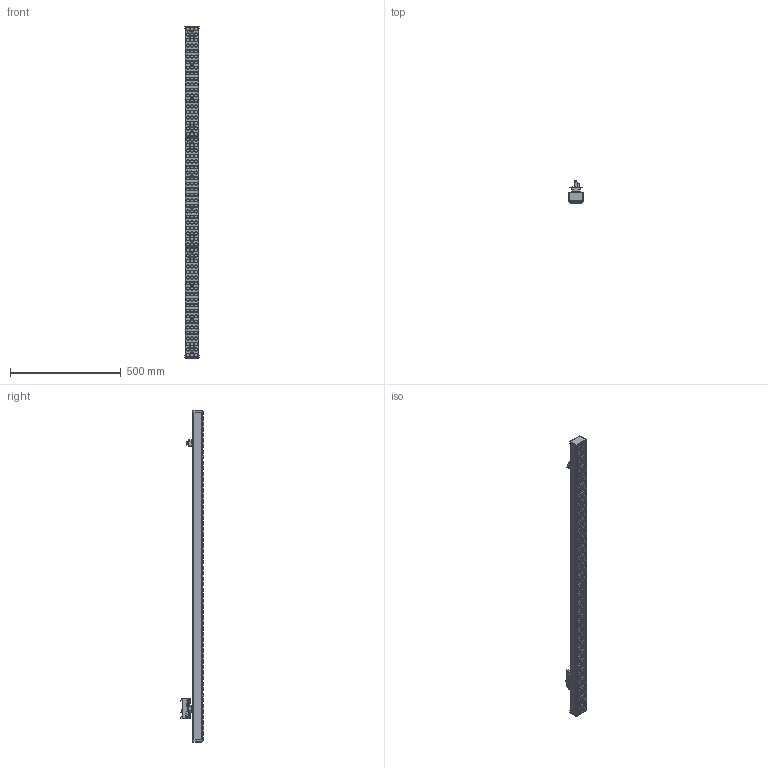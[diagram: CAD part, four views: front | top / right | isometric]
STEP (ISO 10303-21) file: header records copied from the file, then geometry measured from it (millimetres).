
FILE_DESCRIPTION(/* description */ (''),/* implementation_level */ '2;1');
FILE_NAME(/* name */ 'LUMI_TRACK_LUT15.stp',/* time_stamp */ '2025-10-01T15:27:53+02:00',/* author */ ('gian.noche'),/* organization */ (''),/* preprocessor_version */ 'ST-DEVELOPER v19.2',/* originating_system */ 'Autodesk Inventor 2023',/* authorisation */ '');
FILE_SCHEMA (('AUTOMOTIVE_DESIGN { 1 0 10303 214 3 1 1 }'));
Products named in the file (1): IDP_27_LUMI_TRACK_1500_Semplifica_1
Bounding box: 65 x 101.75 x 1501 mm (x, y, z)
Volume: 729340.1 mm3; surface area: 556084.6 mm2
Topology: 3 solids, 3 shells, 1411 faces, 3408 edges, 2203 vertices
Faces by surface type: plane 681, cylinder 433, torus 199, bspline 88, cone 10
Full cylindrical faces by diameter (mm): 4.4 x3, 4.5 x3, 11.5 x1, 15 x180, 23.319 x1, 24.8 x2, 32 x1
Entity records: 47529 total; most frequent: CARTESIAN_POINT 13311, DIRECTION 7706, ORIENTED_EDGE 6812, EDGE_CURVE 3406, AXIS2_PLACEMENT_3D 3032, VERTEX_POINT 2203, LINE 1642, VECTOR 1642
